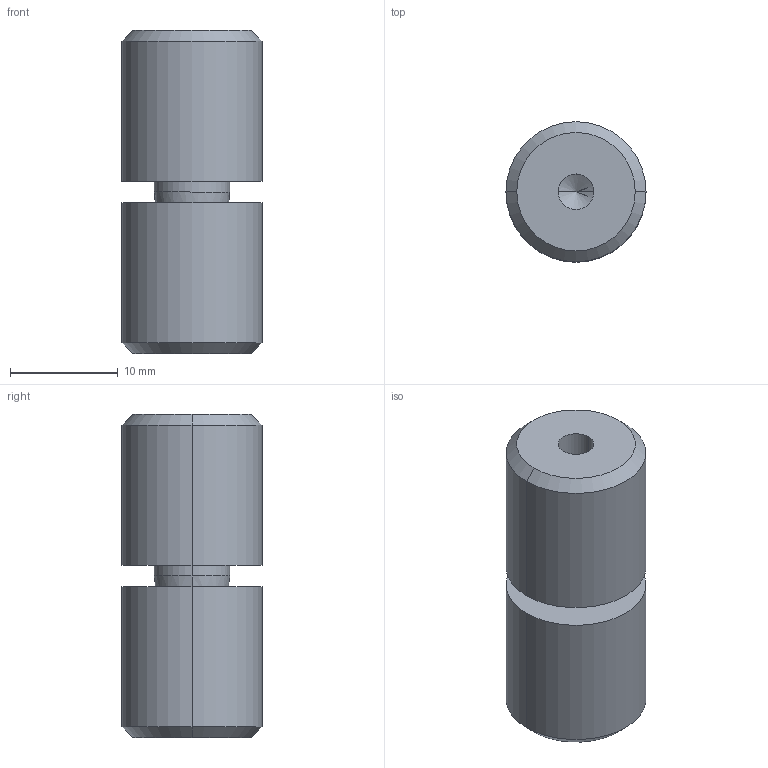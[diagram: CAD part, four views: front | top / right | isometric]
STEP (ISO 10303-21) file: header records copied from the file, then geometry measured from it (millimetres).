
FILE_DESCRIPTION (( 'STEP AP214' ), '1' );
FILE_NAME ('VTPN13-5.STEP', '2024-05-30T21:42:50', ( '' ), ( '' ), 'SwSTEP 2.0', 'SolidWorks 2017', '' );
FILE_SCHEMA (( 'AUTOMOTIVE_DESIGN' ));
Length unit declared in the file: millimetre
Products named in the file (3): VTPNB13-5; VTPNP13-5; VTPN13-5
Assembly tree (2 placements, depth 2):
  VTPN13-5
    VTPNP13-5
    VTPNB13-5
Bounding box: 13 x 13 x 30 mm (x, y, z)
Volume: 3491.8 mm3; surface area: 2041.9 mm2
Topology: 2 solids, 2 shells, 31 faces, 62 edges, 35 vertices
Faces by surface type: cylinder 12, cone 12, plane 5, torus 2
Entity records: 948 total; most frequent: DIRECTION 168, CARTESIAN_POINT 131, ORIENTED_EDGE 120, AXIS2_PLACEMENT_3D 72, EDGE_CURVE 60, CIRCLE 36, EDGE_LOOP 35, VERTEX_POINT 35
